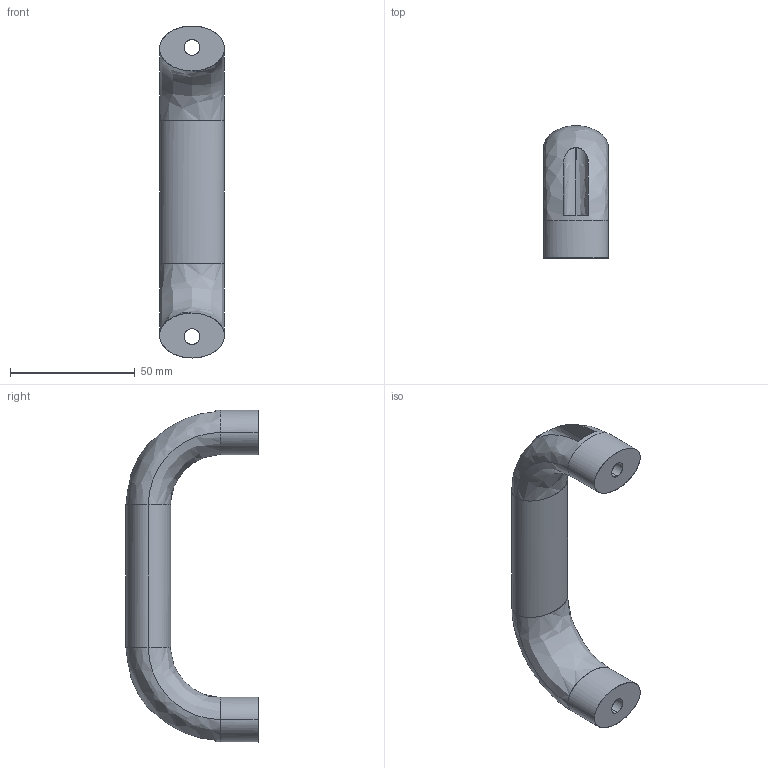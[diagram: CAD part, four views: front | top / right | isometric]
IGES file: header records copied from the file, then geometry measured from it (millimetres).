
Start section: SolidWorks IGES file using analytic representation for surfaces
Global section: file name: C:\Documents and Settings\Deathkiller\桌面\3D IGES\U型把手\MS-746\p=116.IGS; native system: SolidWorks 2006 by SolidWorks Corporation; preprocessor: SolidWorks 2006 by SolidWorks Corporation; author: Deathkiller; date: 080624.173057; units: millimetre
Bounding box: 26 x 52.98 x 133.15 mm (x, y, z)
Surface area: 14615.8 mm2 (no closed solid volume)
Topology: 0 solids, 0 shells, 28 faces, 480 edges, 480 vertices
Faces by surface type: bspline 20, revolution 8
